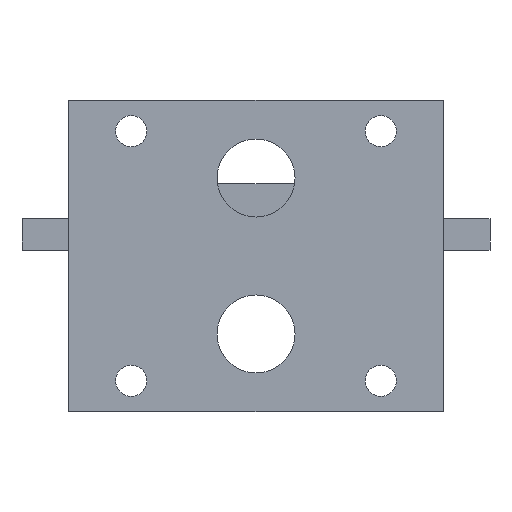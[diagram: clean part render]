
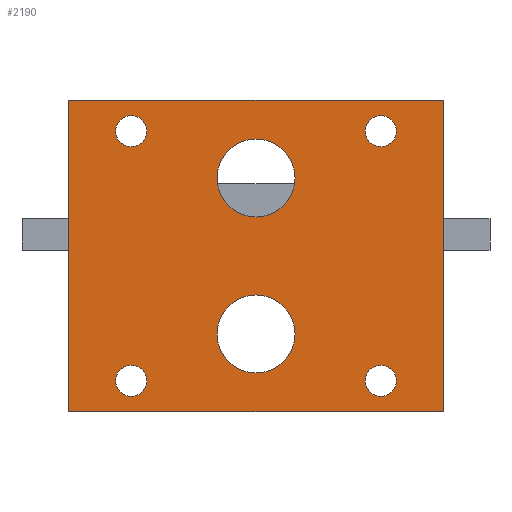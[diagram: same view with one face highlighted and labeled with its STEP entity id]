
A CAD part, left-side view. The second image highlights one B-rep face of the part: STEP entity #2190.
In plain terms, the highlighted planar face has unit normal (-1, 0, 0).
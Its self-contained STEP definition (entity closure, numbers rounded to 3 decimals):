
#137=FACE_BOUND('',#462,.T.);
#138=FACE_BOUND('',#463,.T.);
#139=FACE_BOUND('',#464,.T.);
#140=FACE_BOUND('',#465,.T.);
#141=FACE_BOUND('',#466,.T.);
#142=FACE_BOUND('',#467,.T.);
#190=PLANE('',#2397);
#289=FACE_OUTER_BOUND('',#461,.T.);
#461=EDGE_LOOP('',(#1992,#1993,#1994,#1995));
#462=EDGE_LOOP('',(#1996));
#463=EDGE_LOOP('',(#1997));
#464=EDGE_LOOP('',(#1998));
#465=EDGE_LOOP('',(#1999));
#466=EDGE_LOOP('',(#2000));
#467=EDGE_LOOP('',(#2001));
#533=LINE('',#3166,#739);
#676=LINE('',#3562,#882);
#678=LINE('',#3566,#884);
#680=LINE('',#3569,#886);
#739=VECTOR('',#2575,10.);
#882=VECTOR('',#2956,10.);
#884=VECTOR('',#2960,10.);
#886=VECTOR('',#2964,10.);
#972=CIRCLE('',#2373,5.);
#974=CIRCLE('',#2376,5.);
#977=CIRCLE('',#2388,2.);
#978=CIRCLE('',#2390,2.);
#979=CIRCLE('',#2392,2.);
#980=CIRCLE('',#2394,2.);
#1042=VERTEX_POINT('',#3163);
#1043=VERTEX_POINT('',#3165);
#1167=VERTEX_POINT('',#3514);
#1169=VERTEX_POINT('',#3520);
#1173=VERTEX_POINT('',#3545);
#1174=VERTEX_POINT('',#3549);
#1175=VERTEX_POINT('',#3553);
#1176=VERTEX_POINT('',#3557);
#1177=VERTEX_POINT('',#3561);
#1178=VERTEX_POINT('',#3565);
#1259=EDGE_CURVE('',#1043,#1042,#533,.T.);
#1439=EDGE_CURVE('',#1167,#1167,#972,.T.);
#1442=EDGE_CURVE('',#1169,#1169,#974,.T.);
#1455=EDGE_CURVE('',#1173,#1173,#977,.T.);
#1457=EDGE_CURVE('',#1174,#1174,#978,.T.);
#1459=EDGE_CURVE('',#1175,#1175,#979,.T.);
#1461=EDGE_CURVE('',#1176,#1176,#980,.T.);
#1462=EDGE_CURVE('',#1177,#1043,#676,.T.);
#1464=EDGE_CURVE('',#1042,#1178,#678,.T.);
#1466=EDGE_CURVE('',#1178,#1177,#680,.T.);
#1992=ORIENTED_EDGE('',*,*,#1466,.T.);
#1993=ORIENTED_EDGE('',*,*,#1462,.T.);
#1994=ORIENTED_EDGE('',*,*,#1259,.T.);
#1995=ORIENTED_EDGE('',*,*,#1464,.T.);
#1996=ORIENTED_EDGE('',*,*,#1439,.T.);
#1997=ORIENTED_EDGE('',*,*,#1442,.T.);
#1998=ORIENTED_EDGE('',*,*,#1455,.T.);
#1999=ORIENTED_EDGE('',*,*,#1457,.T.);
#2000=ORIENTED_EDGE('',*,*,#1459,.T.);
#2001=ORIENTED_EDGE('',*,*,#1461,.T.);
#2190=ADVANCED_FACE('',(#289,#137,#138,#139,#140,#141,#142),#190,.T.);
#2373=AXIS2_PLACEMENT_3D('',#3515,#2896,#2897);
#2376=AXIS2_PLACEMENT_3D('',#3521,#2903,#2904);
#2388=AXIS2_PLACEMENT_3D('',#3547,#2937,#2938);
#2390=AXIS2_PLACEMENT_3D('',#3551,#2942,#2943);
#2392=AXIS2_PLACEMENT_3D('',#3555,#2947,#2948);
#2394=AXIS2_PLACEMENT_3D('',#3559,#2952,#2953);
#2397=AXIS2_PLACEMENT_3D('',#3568,#2962,#2963);
#2575=DIRECTION('',(0.,0.,1.));
#2896=DIRECTION('center_axis',(1.,0.,0.));
#2897=DIRECTION('ref_axis',(0.,0.,1.));
#2903=DIRECTION('center_axis',(1.,0.,0.));
#2904=DIRECTION('ref_axis',(0.,0.,1.));
#2937=DIRECTION('center_axis',(1.,0.,0.));
#2938=DIRECTION('ref_axis',(0.,0.,1.));
#2942=DIRECTION('center_axis',(1.,0.,0.));
#2943=DIRECTION('ref_axis',(0.,0.,1.));
#2947=DIRECTION('center_axis',(1.,0.,0.));
#2948=DIRECTION('ref_axis',(0.,0.,1.));
#2952=DIRECTION('center_axis',(1.,0.,0.));
#2953=DIRECTION('ref_axis',(0.,0.,1.));
#2956=DIRECTION('',(0.,-1.,0.));
#2960=DIRECTION('',(0.,1.,0.));
#2962=DIRECTION('center_axis',(-1.,0.,0.));
#2963=DIRECTION('ref_axis',(0.,0.,1.));
#2964=DIRECTION('',(0.,0.,-1.));
#3163=CARTESIAN_POINT('',(-71.1,-24.,18.746));
#3165=CARTESIAN_POINT('',(-71.1,-24.,-21.254));
#3166=CARTESIAN_POINT('',(-71.1,-24.,-21.254));
#3514=CARTESIAN_POINT('',(-71.1,0.,-16.254));
#3515=CARTESIAN_POINT('Origin',(-71.1,0.,-11.254));
#3520=CARTESIAN_POINT('',(-71.1,0.,3.746));
#3521=CARTESIAN_POINT('Origin',(-71.1,0.,8.746));
#3545=CARTESIAN_POINT('',(-71.1,16.,12.746));
#3547=CARTESIAN_POINT('Origin',(-71.1,16.,14.746));
#3549=CARTESIAN_POINT('',(-71.1,16.,-19.254));
#3551=CARTESIAN_POINT('Origin',(-71.1,16.,-17.254));
#3553=CARTESIAN_POINT('',(-71.1,-16.,12.746));
#3555=CARTESIAN_POINT('Origin',(-71.1,-16.,14.746));
#3557=CARTESIAN_POINT('',(-71.1,-16.,-19.254));
#3559=CARTESIAN_POINT('Origin',(-71.1,-16.,-17.254));
#3561=CARTESIAN_POINT('',(-71.1,24.,-21.254));
#3562=CARTESIAN_POINT('',(-71.1,24.,-21.254));
#3565=CARTESIAN_POINT('',(-71.1,24.,18.746));
#3566=CARTESIAN_POINT('',(-71.1,-24.,18.746));
#3568=CARTESIAN_POINT('Origin',(-71.1,0.,1.));
#3569=CARTESIAN_POINT('',(-71.1,24.,18.746));
